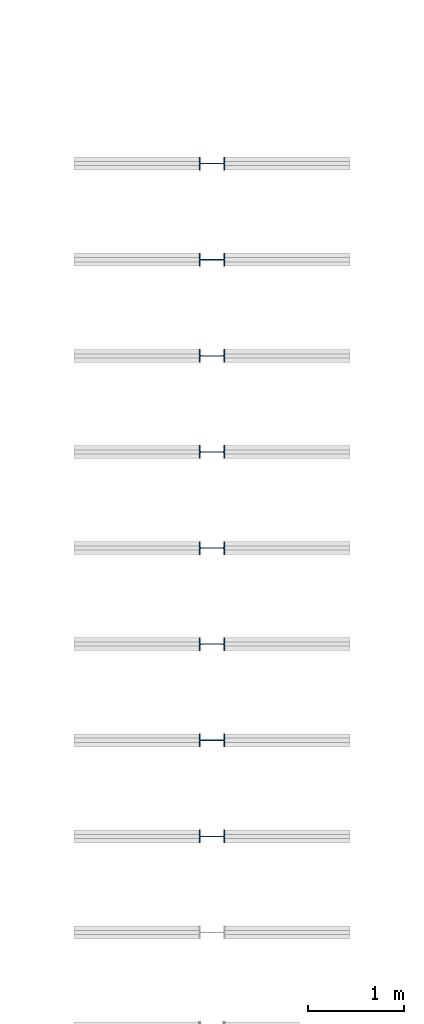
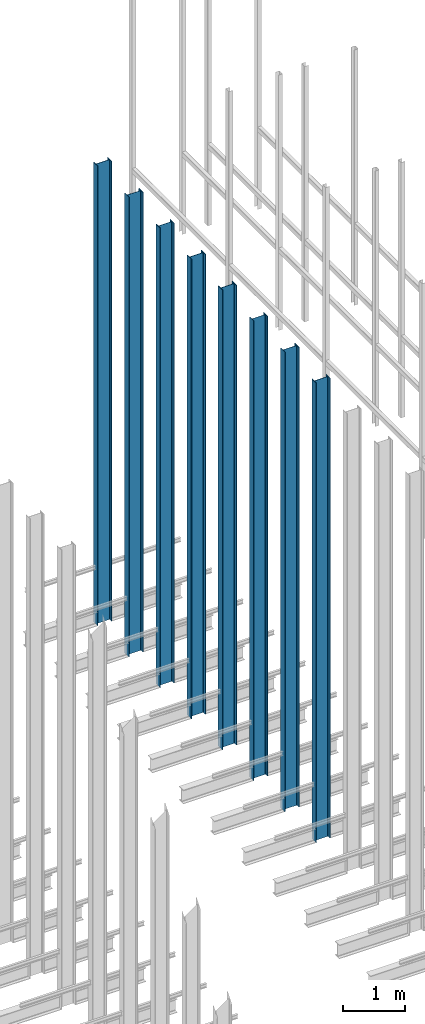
# One storey, part 59 of 302: 8 columns.
"""IFC2X3 building model written with IfcOpenShell, lengths in metres."""

from ifc_helpers import new_model, entity, si_unit, converted_unit, derived_unit, direction, frame, frame_2d, origin, place, context, subcontext, project, spatial, polyline, circle_curve, parameter, trimmed, segment, composite_curve, outline, extrude, source, transform, mapped, material, type_object, type_shapes, element, save


model = new_model("IFC2X3")

# Units and contexts
model_context = context("Model", 3, precision=1e-05, world=origin(), true_north=direction((6.12303176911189e-17, 1.0)))
body_context = subcontext(model_context, "Body", "Model", "MODEL_VIEW")
ifc_project = project(units=[si_unit("LENGTHUNIT", "METRE"), si_unit("AREAUNIT", "SQUARE_METRE"), si_unit("VOLUMEUNIT", "CUBIC_METRE"), converted_unit("PLANEANGLEUNIT", "DEGREE", entity("IfcRatioMeasure", 0.0174532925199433), si_unit("PLANEANGLEUNIT", "RADIAN"), dimensions=[0, 0, 0, 0, 0, 0, 0]), si_unit("MASSUNIT", "GRAM", prefix="KILO"), derived_unit("MASSDENSITYUNIT", [(si_unit("MASSUNIT", "GRAM", prefix="KILO"), 1), (si_unit("LENGTHUNIT", "METRE"), -3)]), derived_unit("MOMENTOFINERTIAUNIT", [(si_unit("LENGTHUNIT", "METRE"), 4)]), si_unit("TIMEUNIT", "SECOND"), si_unit("FREQUENCYUNIT", "HERTZ"), si_unit("THERMODYNAMICTEMPERATUREUNIT", "DEGREE_CELSIUS"), derived_unit("THERMALTRANSMITTANCEUNIT", [(si_unit("MASSUNIT", "GRAM", prefix="KILO"), 1), (si_unit("THERMODYNAMICTEMPERATUREUNIT", "KELVIN"), -1), (si_unit("TIMEUNIT", "SECOND"), -3)]), derived_unit("VOLUMETRICFLOWRATEUNIT", [(si_unit("LENGTHUNIT", "METRE"), 3), (si_unit("TIMEUNIT", "SECOND"), -1)]), si_unit("ELECTRICCURRENTUNIT", "AMPERE"), si_unit("ELECTRICVOLTAGEUNIT", "VOLT"), si_unit("POWERUNIT", "WATT"), si_unit("FORCEUNIT", "NEWTON", prefix="KILO"), si_unit("ILLUMINANCEUNIT", "LUX"), si_unit("LUMINOUSFLUXUNIT", "LUMEN"), si_unit("LUMINOUSINTENSITYUNIT", "CANDELA"), derived_unit("USERDEFINED", [(si_unit("MASSUNIT", "GRAM", prefix="KILO"), -1), (si_unit("LENGTHUNIT", "METRE"), -2), (si_unit("TIMEUNIT", "SECOND"), 3), (si_unit("LUMINOUSFLUXUNIT", "LUMEN"), 1)]), derived_unit("LINEARVELOCITYUNIT", [(si_unit("LENGTHUNIT", "METRE"), 1), (si_unit("TIMEUNIT", "SECOND"), -1)]), si_unit("PRESSUREUNIT", "PASCAL"), derived_unit("USERDEFINED", [(si_unit("LENGTHUNIT", "METRE"), -2), (si_unit("MASSUNIT", "GRAM", prefix="KILO"), 1), (si_unit("TIMEUNIT", "SECOND"), -2)]), derived_unit("LINEARFORCEUNIT", [(si_unit("MASSUNIT", "GRAM", prefix="KILO"), 1), (si_unit("LENGTHUNIT", "METRE"), 1), (si_unit("TIMEUNIT", "SECOND"), -2), (si_unit("LENGTHUNIT", "METRE"), -1)]), derived_unit("PLANARFORCEUNIT", [(si_unit("MASSUNIT", "GRAM", prefix="KILO"), 1), (si_unit("LENGTHUNIT", "METRE"), 1), (si_unit("TIMEUNIT", "SECOND"), -2), (si_unit("LENGTHUNIT", "METRE"), -2)])], contexts=[model_context])

# Site, building, storey
site_placement = place(None, origin())
site = spatial("IfcSite", under=ifc_project, at=site_placement, Name="Default", CompositionType="ELEMENT")
building_placement = place(site_placement, origin())
building = spatial("IfcBuilding", under=site, at=building_placement, CompositionType="ELEMENT")
storey_placement = place(building_placement, frame((0.0, 0.0, -1.3)))
storey = spatial("IfcBuildingStorey", under=building, at=storey_placement, Name="00_EG", CompositionType="ELEMENT", Elevation=-1.3)

# Columns
ifc_material = material(Name="Metall - Baustahl S235")
column_type = type_object("IfcColumnType", Name="IPE Stütze:IPE 270", PredefinedType="COLUMN", material=ifc_material)
shared_shape = source(origin(), body_context, "Body", "SweptSolid", [
    extrude(outline(composite_curve([segment(polyline([(0.1248, -0.0675), (0.135, -0.0675)]), True, "CONTINUOUS"), segment(polyline([(0.135, -0.0675), (0.135, 0.0675)]), True, "CONTINUOUS"), segment(polyline([(0.135, 0.0675), (0.1248, 0.0675)]), True, "CONTINUOUS"), segment(polyline([(0.1248, 0.0675), (0.1248, 0.0183)]), True, "CONTINUOUS"), segment(trimmed(circle_curve(frame_2d((0.1098, 0.0183), x_axis=(1.0, 0.0)), 0.015), [parameter(270.0)], [parameter(0.0)], True, "PARAMETER"), False, "CONTINUOUS"), segment(polyline([(0.1098, 0.0033), (-0.1098, 0.0033)]), True, "CONTINUOUS"), segment(trimmed(circle_curve(frame_2d((-0.1098, 0.0183), x_axis=(0.0, -1.0)), 0.015), [parameter(270.0)], [parameter(0.0)], True, "PARAMETER"), False, "CONTINUOUS"), segment(polyline([(-0.1248, 0.0183), (-0.1248, 0.0675)]), True, "CONTINUOUS"), segment(polyline([(-0.1248, 0.0675), (-0.135, 0.0675)]), True, "CONTINUOUS"), segment(polyline([(-0.135, 0.0675), (-0.135, -0.0675)]), True, "CONTINUOUS"), segment(polyline([(-0.135, -0.0675), (-0.1248, -0.0675)]), True, "CONTINUOUS"), segment(polyline([(-0.1248, -0.0675), (-0.1248, -0.0183)]), True, "CONTINUOUS"), segment(trimmed(circle_curve(frame_2d((-0.1098, -0.0183), x_axis=(-1.0, 0.0)), 0.015), [parameter(269.999999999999)], [parameter(0.0)], True, "PARAMETER"), False, "CONTINUOUS"), segment(polyline([(-0.1098, -0.0033), (0.1098, -0.0033)]), True, "CONTINUOUS"), segment(trimmed(circle_curve(frame_2d((0.1098, -0.0183), x_axis=(0.0, 1.0)), 0.015), [parameter(270.0)], [parameter(0.0)], True, "PARAMETER"), False, "CONTINUOUS"), segment(polyline([(0.1248, -0.0183), (0.1248, -0.0675)]), True, "CONTINUOUS")], self_intersect=False)), frame((0.0, 0.0, -0.0300000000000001), z_axis=(0.0, 0.0, 1.0), x_axis=(0.0, -1.0, 0.0)), (0.0, 0.0, 1.0), 9.0),
])
type_shapes(column_type, [shared_shape])
for number, where, z_axis, x_axis in (
    (1, (-164.775111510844, 55.0155889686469, 1.3), (0.0, 0.0, 1.0), (0.0, 1.0, 0.0)),
    (2, (-164.775111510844, 54.0155889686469, 1.3), (0.0, 0.0, 1.0), (0.0, 1.0, 0.0)),
    (3, (-164.775111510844, 53.0155889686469, 1.3), (0.0, 0.0, 1.0), (0.0, 1.0, 0.0)),
    (4, (-164.775111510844, 52.0155889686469, 1.3), (0.0, 0.0, 1.0), (0.0, 1.0, 0.0)),
    (5, (-164.775111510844, 51.0155889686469, 1.3), (0.0, 0.0, 1.0), (0.0, 1.0, 0.0)),
    (6, (-164.775111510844, 50.0155889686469, 1.3), (0.0, 0.0, 1.0), (0.0, 1.0, 0.0)),
    (7, (-164.775111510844, 49.0155889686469, 1.3), (0.0, 0.0, 1.0), (0.0, 1.0, 0.0)),
    (8, (-164.775111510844, 48.0155889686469, 1.3), (0.0, 0.0, 1.0), (0.0, 1.0, 0.0)),
):
    element("IfcColumn", number, at=place(storey_placement, frame(where, z_axis=z_axis, x_axis=x_axis)), inside=storey, type_object=column_type, material=ifc_material, Name="IPE Stütze:IPE 270", ObjectType="IPE Stütze:IPE 270", context=body_context, shape_type="MappedRepresentation", body=[
        mapped(shared_shape, transform((0.0, 0.0, 0.0), scale=1.0)),
    ])

save(model, "model.ifc")
